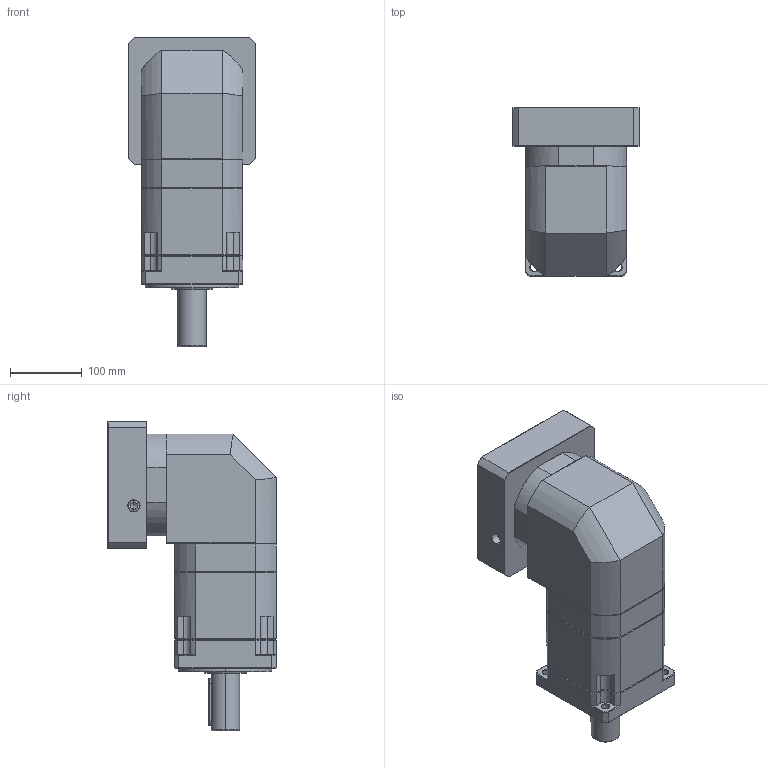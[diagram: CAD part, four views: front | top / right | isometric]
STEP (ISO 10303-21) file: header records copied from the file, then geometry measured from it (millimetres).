
FILE_DESCRIPTION (( 'STEP AP214' ), '1' );
FILE_NAME ('ZBR142A-D40-L3-P2-32-150-185-M10.step', '2023-09-02T07:13:50', ( '' ), ( '' ), 'SwSTEP 2.0', 'SolidWorks 2016', '' );
FILE_SCHEMA (( 'AUTOMOTIVE_DESIGN' ));
Length unit declared in the file: millimetre
Products named in the file (1): ZBR142A-D40-L3-P2-32-150-185-M10
Bounding box: 178 x 235 x 431.7 mm (x, y, z)
Volume: 7536293 mm3; surface area: 469892 mm2
Topology: 6 solids, 6 shells, 2336 faces, 6121 edges, 3892 vertices
Faces by surface type: plane 1132, cylinder 428, bspline 414, cone 340, torus 22
Entity records: 131311 total; most frequent: CARTESIAN_POINT 51630, ORIENTED_EDGE 12182, DIRECTION 9605, EDGE_CURVE 6091, VECTOR 3923, LINE 3923, VERTEX_POINT 3892, AXIS2_PLACEMENT_3D 2841
